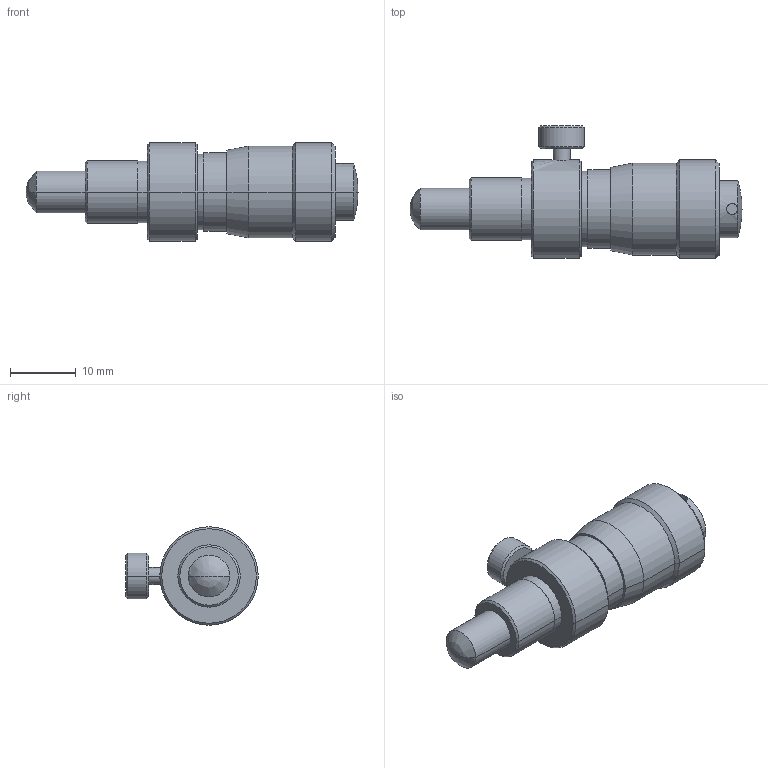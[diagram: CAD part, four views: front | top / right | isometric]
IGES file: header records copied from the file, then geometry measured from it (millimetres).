
Start section: Elysium IGES Interface
Global section: file name: 72HR:\01_商品設計部\01_MK外ﾃｰﾏ(U)\15_MH_3D\IGESﾌｧｲﾙ\148-318_MHC3-6.5CLC.igs; native system: Creo Elements/Direct Modeling 18.1B  29-Sep-2012; preprocessor: Creo Element/Direct IGES_3D V2.2; author: Unknown; organization: Unknown; date: 20140624.082031; units: millimetre
Bounding box: 50.6 x 20.2 x 15 mm (x, y, z)
Volume: 5735.2 mm3; surface area: 2369.6 mm2
Topology: 1 solids, 1 shells, 54 faces, 111 edges, 64 vertices
Faces by surface type: bspline 54
